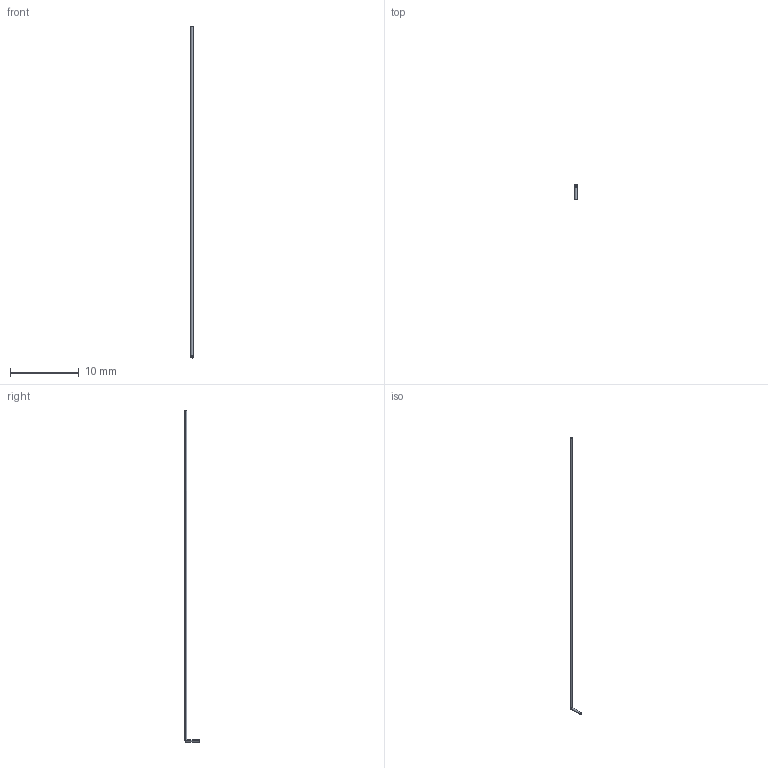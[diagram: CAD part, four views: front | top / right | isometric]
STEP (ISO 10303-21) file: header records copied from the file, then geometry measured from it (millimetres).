
FILE_DESCRIPTION((('zoo.dev export')), '2;1');
FILE_NAME('Stratolink_Wire_48mm_D0p321_Nominal.step', '2026-02-13T00:36:59.571562133+00:00', ('Author unknown'), ('Organization unknown'), 'zoo.dev beta', 'zoo.dev', 'Authorization unknown');
FILE_SCHEMA(('AP203_CONFIGURATION_CONTROLLED_3D_DESIGN_OF_MECHANICAL_PARTS_AND_ASSEMBLIES_MIM_LF'));
Length unit declared in the file: metre
Products named in the file (1): UNIDENTIFIED_PRODUCT
Bounding box: 0.32 x 2.16 x 48.16 mm (x, y, z)
Volume: 4 mm3; surface area: 50.6 mm2
Topology: 1 solids, 1 shells, 8 faces, 15 edges, 9 vertices
Faces by surface type: cylinder 4, plane 4
Entity records: 292 total; most frequent: CARTESIAN_POINT 126, ORIENTED_EDGE 30, DIRECTION 28, EDGE_CURVE 15, AXIS2_PLACEMENT_3D 13, VERTEX_POINT 9, EDGE_LOOP 8, FACE_BOUND 8
